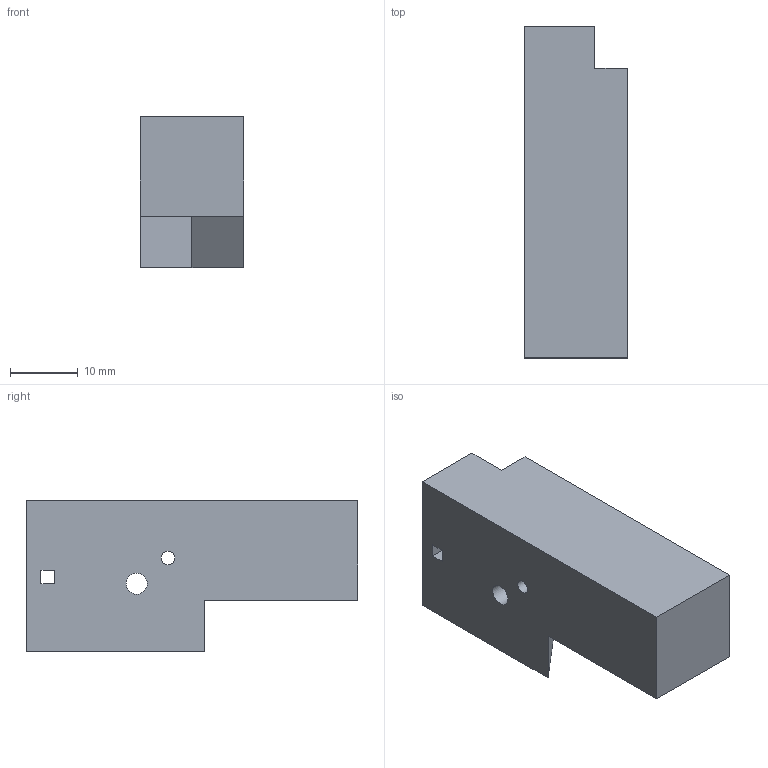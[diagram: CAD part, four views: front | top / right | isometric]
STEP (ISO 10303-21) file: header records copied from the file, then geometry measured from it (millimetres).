
FILE_DESCRIPTION(('Open CASCADE Model'),'2;1');
FILE_NAME('Open CASCADE Shape Model','2021-05-07T17:27:11',('Author'),( 'Open CASCADE'),'Open CASCADE STEP processor 7.4','Open CASCADE 7.4' ,'Unknown');
FILE_SCHEMA(('AUTOMOTIVE_DESIGN { 1 0 10303 214 1 1 1 1 }'));
Length unit declared in the file: millimetre
Products named in the file (1): Open CASCADE STEP translator 7.4 228
Bounding box: 15.28 x 49.11 x 22.37 mm (x, y, z)
Volume: 12876.6 mm3; surface area: 4328.7 mm2
Topology: 1 solids, 1 shells, 21 faces, 54 edges, 36 vertices
Faces by surface type: plane 19, cylinder 2
Full cylindrical faces by diameter (mm): 2 x1, 3.13 x1
Entity records: 1354 total; most frequent: CARTESIAN_POINT 240, DIRECTION 200, LINE 146, VECTOR 146, ORIENTED_EDGE 108, PCURVE 108, DEFINITIONAL_REPRESENTATION 108, EDGE_CURVE 54
